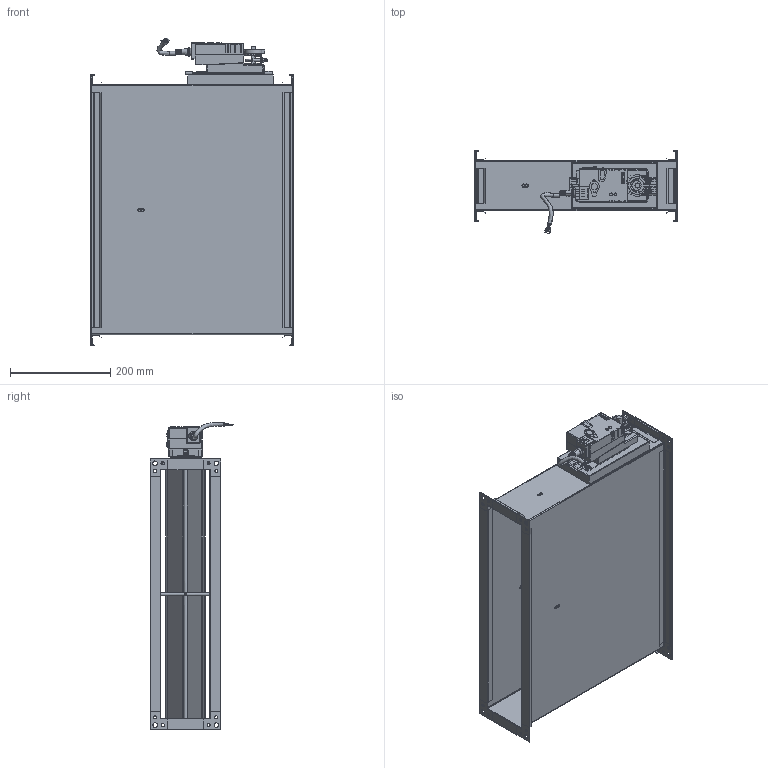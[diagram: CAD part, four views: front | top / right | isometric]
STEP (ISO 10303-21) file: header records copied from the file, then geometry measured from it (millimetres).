
FILE_DESCRIPTION (( 'STEP AP214' ), '1' );
FILE_NAME ('VAV-S500100.STEP', '2025-05-07T13:42:31', ( '' ), ( '' ), 'SwSTEP 2.0', 'SolidWorks 2025', '' );
FILE_SCHEMA (( 'AUTOMOTIVE_DESIGN' ));
Length unit declared in the file: millimetre
Products named in the file (1): VAV-S500100
Bounding box: 404.4 x 166.91 x 613.69 mm (x, y, z)
Surface area: 1639000.7 mm2 (no closed solid volume)
Topology: 0 solids, 58 shells, 2060 faces, 5302 edges, 3367 vertices
Faces by surface type: plane 1515, cylinder 492, bspline 24, sphere 18, cone 10, torus 1
Full cylindrical faces by diameter (mm): 1 x4, 4 x8, 5.876 x4, 6 x1, 6.102 x4, 8 x1, 9 x4, 11 x1, 20 x1, 21 x2
Entity records: 90488 total; most frequent: CARTESIAN_POINT 41514, ORIENTED_EDGE 10385, DIRECTION 6592, EDGE_CURVE 5216, VERTEX_POINT 3335, B_SPLINE_CURVE_WITH_KNOTS 3162, AXIS2_PLACEMENT_3D 2533, EDGE_LOOP 2254
